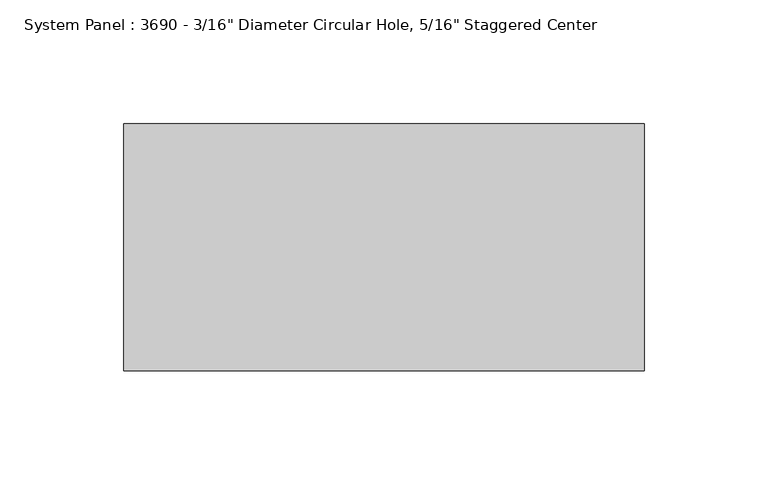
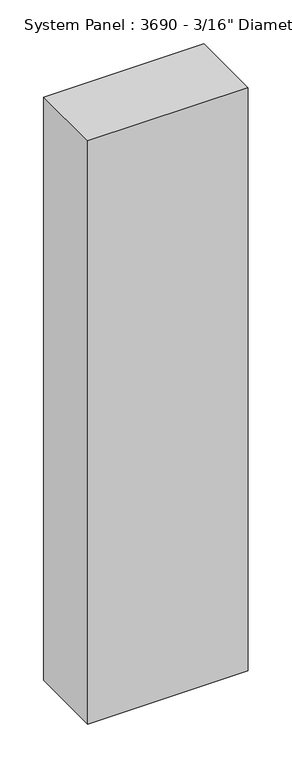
"""IFC4 building model written with IfcOpenShell, lengths in millimetres: plate geometry."""

from ifc_helpers import new_model, si_unit, origin, origin_with_axes, place, context, project, spatial, polyline, outline, extrude, source, transform, mapped, element, save


def plate_1d212017(model_context):
    return source(origin(), model_context, "Body", "SweptSolid", [
        extrude(outline(polyline([(105.3999998, -50.0), (-105.3999998, -50.0), (-105.3999998, 50.0), (105.3999998, 50.0), (105.3999998, -50.0)])), origin_with_axes(), (0.0, 0.0, 1.0), 810.1533686),
    ])


if __name__ == "__main__":
    model = new_model("IFC4")
    model_context = context("Model", 3, world=origin())
    ifc_project = project(units=[si_unit("LENGTHUNIT", "METRE", prefix="MILLI")], contexts=[model_context])
    site = spatial("IfcSite", under=ifc_project)
    building = spatial("IfcBuilding", under=site)
    placement = place(None, origin())
    plate_shape = plate_1d212017(model_context)
    element("IfcPlate", 1, ObjectType="System Panel : 3690 - 3/16\" Diameter Circular Hole, 5/16\" Staggered Center", at=placement, inside=building, context=model_context, shape_type="MappedRepresentation", body=[
        mapped(plate_shape, transform((0.0, 0.0, 0.0), x_axis=(1.0, 0.0, 0.0), y_axis=(0.0, 1.0, 0.0), z_axis=(0.0, 0.0, 1.0))),
    ])
    save(model, "model.ifc")
